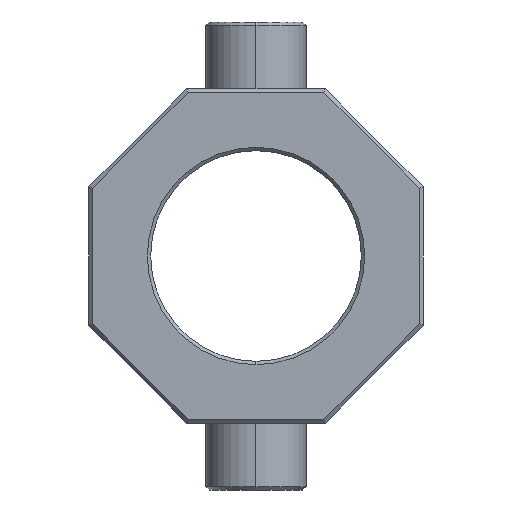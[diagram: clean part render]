
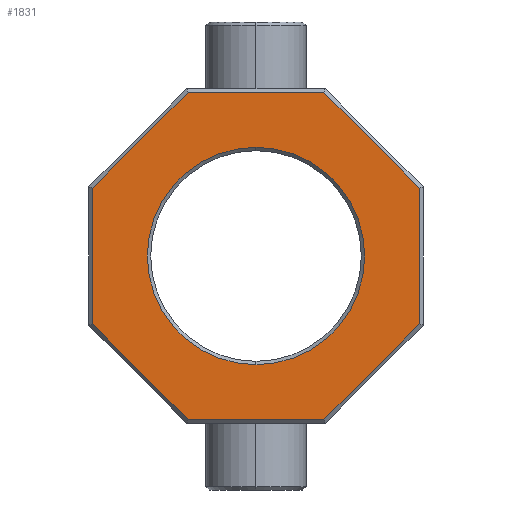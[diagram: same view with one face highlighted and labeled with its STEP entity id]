
A CAD part, left-side view. The second image highlights one B-rep face of the part: STEP entity #1831.
In plain terms, the highlighted planar face has unit normal (-1, 0, 0).
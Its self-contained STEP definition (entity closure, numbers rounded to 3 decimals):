
#42 = LINE ( 'NONE', #1750, #794 ) ;
#71 = VERTEX_POINT ( 'NONE', #1413 ) ;
#101 = DIRECTION ( 'NONE',  ( 1., 0., 0. ) ) ;
#107 = DIRECTION ( 'NONE',  ( 0., -0.707, -0.707 ) ) ;
#108 = EDGE_CURVE ( 'NONE', #122, #1334, #952, .T. ) ;
#110 = DIRECTION ( 'NONE',  ( 0., 0.707, 0.707 ) ) ;
#118 = VECTOR ( 'NONE', #470, 1000. ) ;
#122 = VERTEX_POINT ( 'NONE', #1380 ) ;
#127 = EDGE_CURVE ( 'NONE', #71, #503, #816, .T. ) ;
#161 = PLANE ( 'NONE',  #1653 ) ;
#166 = CARTESIAN_POINT ( 'NONE',  ( -20., 49., -20.297 ) ) ;
#231 = DIRECTION ( 'NONE',  ( 0., 0., -1. ) ) ;
#251 = CARTESIAN_POINT ( 'NONE',  ( -20., -20.297, -49. ) ) ;
#262 = ORIENTED_EDGE ( 'NONE', *, *, #1491, .T. ) ;
#263 = CARTESIAN_POINT ( 'NONE',  ( -20., -20.004, 49.293 ) ) ;
#308 = VECTOR ( 'NONE', #1839, 1000. ) ;
#309 = ORIENTED_EDGE ( 'NONE', *, *, #108, .T. ) ;
#319 = FACE_BOUND ( 'NONE', #898, .T. ) ;
#349 = DIRECTION ( 'NONE',  ( 0., -0.707, 0.707 ) ) ;
#373 = VERTEX_POINT ( 'NONE', #1664 ) ;
#446 = DIRECTION ( 'NONE',  ( 0., 0., -1. ) ) ;
#461 = EDGE_CURVE ( 'NONE', #503, #1276, #1687, .T. ) ;
#470 = DIRECTION ( 'NONE',  ( 0., 0.707, -0.707 ) ) ;
#485 = DIRECTION ( 'NONE',  ( 1., 0., 0. ) ) ;
#503 = VERTEX_POINT ( 'NONE', #1411 ) ;
#554 = CIRCLE ( 'NONE', #1852, 32.5 ) ;
#575 = CARTESIAN_POINT ( 'NONE',  ( -20., 20.004, -49.293 ) ) ;
#583 = CARTESIAN_POINT ( 'NONE',  ( -20., -20.711, -49. ) ) ;
#611 = ORIENTED_EDGE ( 'NONE', *, *, #127, .T. ) ;
#645 = DIRECTION ( 'NONE',  ( 0., 0., 1. ) ) ;
#660 = AXIS2_PLACEMENT_3D ( 'NONE', #1196, #101, #231 ) ;
#665 = CARTESIAN_POINT ( 'NONE',  ( -20., -49.293, -20.004 ) ) ;
#684 = LINE ( 'NONE', #665, #1253 ) ;
#794 = VECTOR ( 'NONE', #1591, 1000. ) ;
#816 = LINE ( 'NONE', #1445, #1474 ) ;
#828 = VERTEX_POINT ( 'NONE', #880 ) ;
#866 = CARTESIAN_POINT ( 'NONE',  ( -20., -20.297, 49. ) ) ;
#880 = CARTESIAN_POINT ( 'NONE',  ( -20., 0., -32.5 ) ) ;
#897 = EDGE_CURVE ( 'NONE', #1521, #1945, #2002, .T. ) ;
#898 = EDGE_LOOP ( 'NONE', ( #980, #1186 ) ) ;
#942 = CARTESIAN_POINT ( 'NONE',  ( -20., 49., 20.297 ) ) ;
#943 = EDGE_CURVE ( 'NONE', #828, #373, #554, .T. ) ;
#952 = LINE ( 'NONE', #1252, #118 ) ;
#963 = ORIENTED_EDGE ( 'NONE', *, *, #1539, .T. ) ;
#980 = ORIENTED_EDGE ( 'NONE', *, *, #1677, .T. ) ;
#1070 = EDGE_CURVE ( 'NONE', #1649, #71, #684, .T. ) ;
#1099 = CARTESIAN_POINT ( 'NONE',  ( -20., 0., 0. ) ) ;
#1109 = FACE_OUTER_BOUND ( 'NONE', #1645, .T. ) ;
#1118 = CARTESIAN_POINT ( 'NONE',  ( -20., 49., -20.711 ) ) ;
#1159 = CIRCLE ( 'NONE', #660, 32.5 ) ;
#1186 = ORIENTED_EDGE ( 'NONE', *, *, #943, .T. ) ;
#1188 = CARTESIAN_POINT ( 'NONE',  ( -20., 20.297, -49. ) ) ;
#1196 = CARTESIAN_POINT ( 'NONE',  ( -20., 0., 0. ) ) ;
#1252 = CARTESIAN_POINT ( 'NONE',  ( -20., 49.293, 20.004 ) ) ;
#1253 = VECTOR ( 'NONE', #349, 1000. ) ;
#1276 = VERTEX_POINT ( 'NONE', #866 ) ;
#1334 = VERTEX_POINT ( 'NONE', #942 ) ;
#1372 = LINE ( 'NONE', #583, #308 ) ;
#1380 = CARTESIAN_POINT ( 'NONE',  ( -20., 20.297, 49. ) ) ;
#1394 = DIRECTION ( 'NONE',  ( 1., 0., 0. ) ) ;
#1409 = VECTOR ( 'NONE', #110, 1000. ) ;
#1411 = CARTESIAN_POINT ( 'NONE',  ( -20., -49., 20.297 ) ) ;
#1413 = CARTESIAN_POINT ( 'NONE',  ( -20., -49., -20.297 ) ) ;
#1445 = CARTESIAN_POINT ( 'NONE',  ( -20., -49., 20.711 ) ) ;
#1447 = DIRECTION ( 'NONE',  ( 0., 0., -1. ) ) ;
#1474 = VECTOR ( 'NONE', #645, 1000. ) ;
#1491 = EDGE_CURVE ( 'NONE', #1334, #1521, #1624, .T. ) ;
#1512 = VECTOR ( 'NONE', #107, 1000. ) ;
#1521 = VERTEX_POINT ( 'NONE', #166 ) ;
#1539 = EDGE_CURVE ( 'NONE', #1276, #122, #42, .T. ) ;
#1551 = VECTOR ( 'NONE', #1447, 1000. ) ;
#1591 = DIRECTION ( 'NONE',  ( 0., 1., 0. ) ) ;
#1624 = LINE ( 'NONE', #1118, #1551 ) ;
#1645 = EDGE_LOOP ( 'NONE', ( #309, #262, #1700, #2028, #1871, #611, #1744, #963 ) ) ;
#1649 = VERTEX_POINT ( 'NONE', #251 ) ;
#1653 = AXIS2_PLACEMENT_3D ( 'NONE', #1913, #485, #1763 ) ;
#1664 = CARTESIAN_POINT ( 'NONE',  ( -20., 0., 32.5 ) ) ;
#1677 = EDGE_CURVE ( 'NONE', #373, #828, #1159, .T. ) ;
#1687 = LINE ( 'NONE', #263, #1409 ) ;
#1700 = ORIENTED_EDGE ( 'NONE', *, *, #897, .T. ) ;
#1744 = ORIENTED_EDGE ( 'NONE', *, *, #461, .T. ) ;
#1750 = CARTESIAN_POINT ( 'NONE',  ( -20., 20.711, 49. ) ) ;
#1763 = DIRECTION ( 'NONE',  ( 0., 0., -1. ) ) ;
#1831 = ADVANCED_FACE ( 'NONE', ( #1109, #319 ), #161, .F. ) ;
#1839 = DIRECTION ( 'NONE',  ( 0., -1., 0. ) ) ;
#1852 = AXIS2_PLACEMENT_3D ( 'NONE', #1099, #1394, #446 ) ;
#1871 = ORIENTED_EDGE ( 'NONE', *, *, #1070, .T. ) ;
#1913 = CARTESIAN_POINT ( 'NONE',  ( -20., 0., 0. ) ) ;
#1945 = VERTEX_POINT ( 'NONE', #1188 ) ;
#2002 = LINE ( 'NONE', #575, #1512 ) ;
#2028 = ORIENTED_EDGE ( 'NONE', *, *, #2046, .T. ) ;
#2046 = EDGE_CURVE ( 'NONE', #1945, #1649, #1372, .T. ) ;
